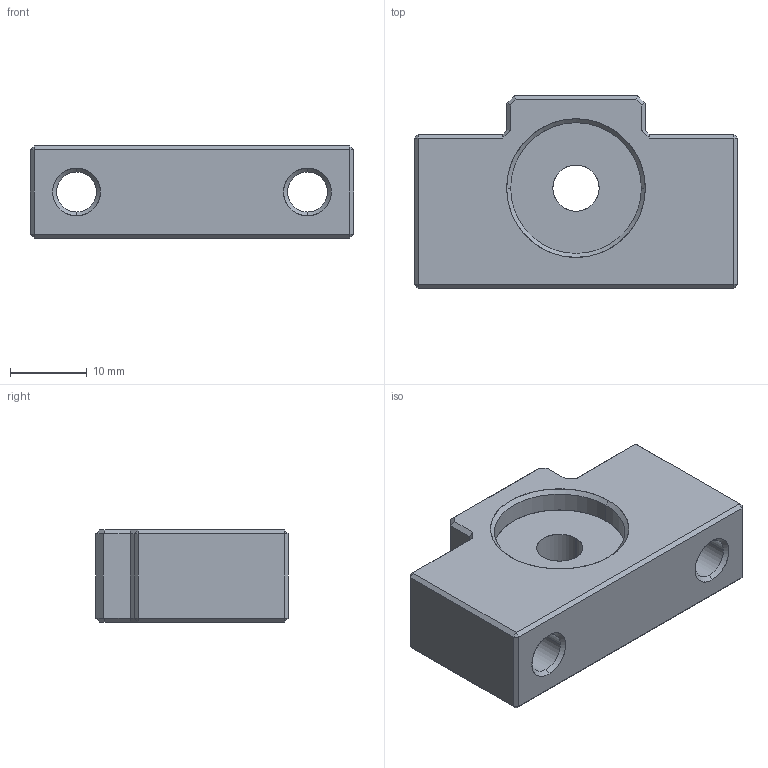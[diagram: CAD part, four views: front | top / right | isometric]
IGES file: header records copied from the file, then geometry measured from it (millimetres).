
Start section: SolidWorks IGES file using analytic representation for surfaces
Global section: file name: E:\同创达图纸\产品示意图\3D选型图\支撑座\EF系列\EF06.IGS; native system: SolidWorks 2012; preprocessor: SolidWorks 2012; author: gao; date: 130702.171236; units: millimetre
Bounding box: 42 x 25 x 12 mm (x, y, z)
Surface area: 4377.5 mm2 (no closed solid volume)
Topology: 0 solids, 0 shells, 80 faces, 776 edges, 776 vertices
Faces by surface type: bspline 54, revolution 26
